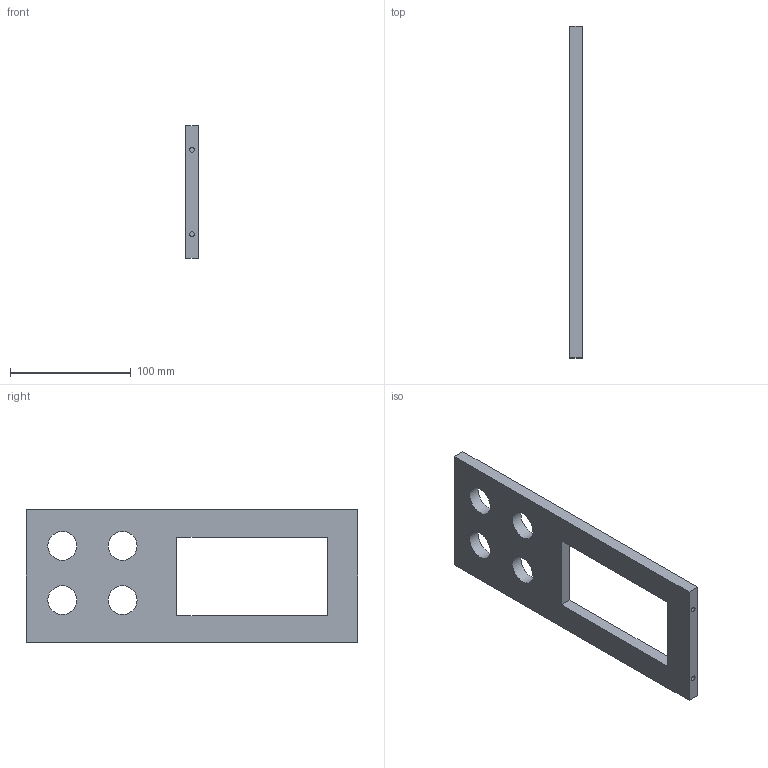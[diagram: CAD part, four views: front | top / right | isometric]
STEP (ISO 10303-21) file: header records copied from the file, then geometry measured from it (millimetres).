
FILE_DESCRIPTION(('FreeCAD Model'),'2;1');
FILE_NAME( '/home/bluelambda/Documents/Arcade/cad/step/connector_panel.step', '2016-04-13T23:53:14',('Author'),(''), 'Open CASCADE STEP processor 6.9','FreeCAD','Unknown');
FILE_SCHEMA(('AUTOMOTIVE_DESIGN { 1 0 10303 214 1 1 1 1 }'));
Length unit declared in the file: millimetre
Products named in the file (1): connector_panel
Bounding box: 10 x 275 x 110 mm (x, y, z)
Volume: 202651.8 mm3; surface area: 55649.5 mm2
Topology: 1 solids, 1 shells, 22 faces, 48 edges, 32 vertices
Faces by surface type: plane 14, cylinder 8
Full cylindrical faces by diameter (mm): 4 x4, 24 x4
Entity records: 1297 total; most frequent: CARTESIAN_POINT 247, DIRECTION 198, LINE 112, VECTOR 112, ORIENTED_EDGE 96, PCURVE 96, DEFINITIONAL_REPRESENTATION 96, EDGE_CURVE 48
